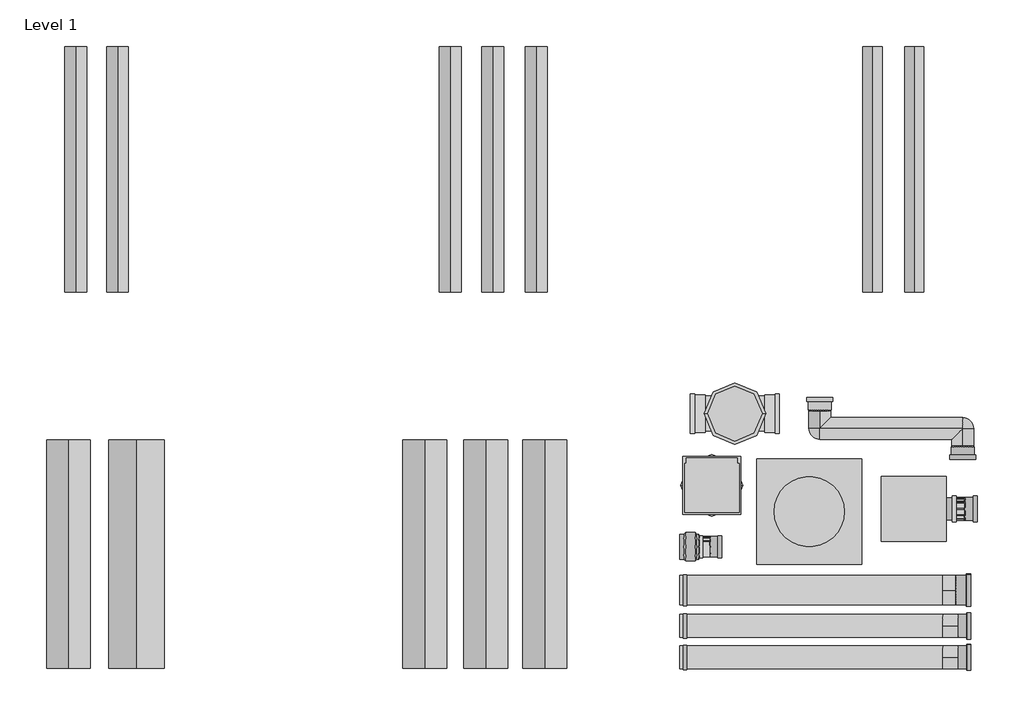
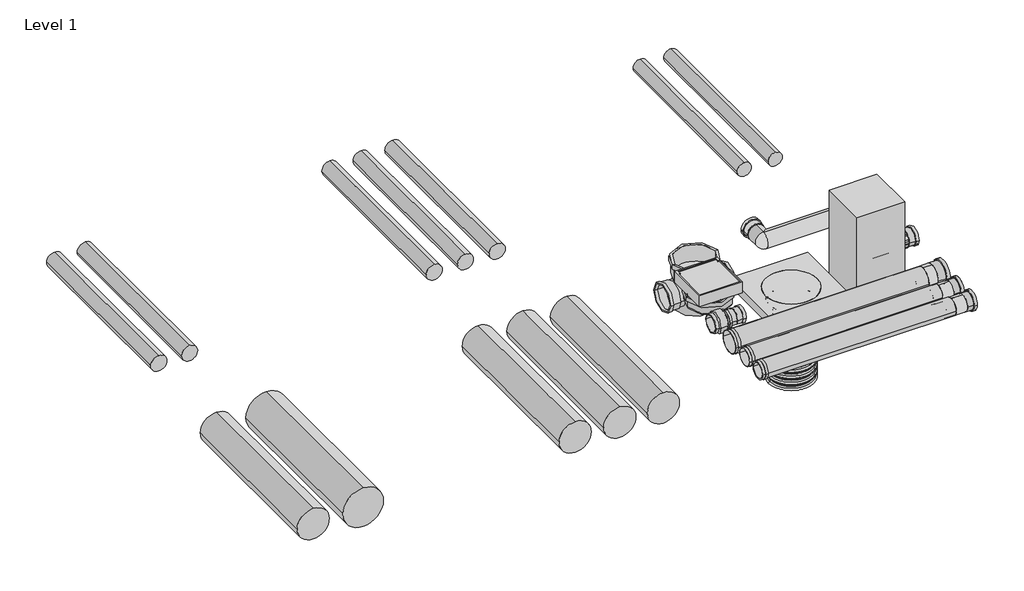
# One storey, incomplete: 12 pipe segments, 11 pipe fittings, 1 valve.
"""IFC4 building model written with IfcOpenShell, lengths in millimetres."""

from ifc_helpers import new_model, si_unit, point, frame, frame_2d, origin, place, context, project, spatial, circle_curve, trimmed, segment, composite_curve, outline, extrude, transform, mapped, element, save
from components import pipe_fitting_cb8fc429, pipe_fitting_7d9cd8cc, pipe_fitting_f4afef39, dn315_c06aca54, dn315_d1f62dcb, dn315_4a5b688f, sn4_1babb9bf, sn4_5ca09614, var_7b45dea3, var_4b5954e3, var_113e7091, var_a019f359, var_64b5a36c, valve_17ba4cc8

model = new_model("IFC4")

# Units and contexts
model_context = context("Model", 3, world=origin())
ifc_project = project(units=[si_unit("LENGTHUNIT", "METRE", prefix="MILLI")], contexts=[model_context])

# Site, building, storey
site = spatial("IfcSite", under=ifc_project)
building = spatial("IfcBuilding", under=site)
storey = spatial("IfcBuildingStorey", under=building, Name="Level 1", Elevation=0.0)

# Pipe fittings
placement = place(None, origin())
pipe_fitting_shape = pipe_fitting_cb8fc429(model_context)
element("IfcPipeFitting", 1, ObjectType="NLRS-90-PIF_Wavin PVC Buitenriolering Wavinflex : 160-160", at=placement, inside=storey, context=model_context, shape_type="MappedRepresentation", body=[
    mapped(pipe_fitting_shape, transform((1864.2860644, 6480.2539341, 0.0), x_axis=(1.0, 0.0, 0.0), y_axis=(0.0, 1.0, 0.0), z_axis=(0.0, 0.0, 1.0))),
])
pipe_fitting_2_shape = pipe_fitting_7d9cd8cc(model_context)
element("IfcPipeFitting", 2, ObjectType="NLRS-90-PIF_Wavin PVC Buitenriolering Wavinflex : 125-110", at=placement, inside=storey, context=model_context, shape_type="MappedRepresentation", body=[
    mapped(pipe_fitting_2_shape, transform((1880.2860644, 6096.6813144, 0.0), x_axis=(1.0, 0.0, 0.0), y_axis=(0.0, 1.0, 0.0), z_axis=(0.0, 0.0, 1.0))),
])
pipe_fitting_3_shape = pipe_fitting_f4afef39(model_context)
element("IfcPipeFitting", 3, ObjectType="NLRS-90-PIF_Wavin PVC Buitenriolering Wavinflex : 125-125", at=placement, inside=storey, context=model_context, shape_type="MappedRepresentation", body=[
    mapped(pipe_fitting_3_shape, transform((1880.2860644, 6275.7185379, 0.0), x_axis=(1.0, 0.0, 0.0), y_axis=(0.0, 1.0, 0.0), z_axis=(0.0, 0.0, 1.0))),
])
dn315_shape = dn315_c06aca54(model_context)
dn315_2_shape = dn315_d1f62dcb(model_context)
dn315_3_shape = dn315_4a5b688f(model_context)
element("IfcPipeFitting", 4, ObjectType="NLRS-90-PIF_Z_DO_NOT_USE_Wavin PVC Buitenriolering Schachtbuis (Nested) : DN315", at=placement, inside=storey, context=model_context, shape_type="MappedRepresentation", body=[
    mapped(dn315_shape, transform((1030.2860644, 6928.0712689, -805.0), x_axis=(0.0, 0.0, 1.0), y_axis=(-1.0, 0.0, 0.0), z_axis=(0.0, -1.0, 0.0))),
    mapped(dn315_2_shape, transform((1030.2860644, 6928.0712689, -805.0), x_axis=(0.0, 0.0, 1.0), y_axis=(-1.0, 0.0, 0.0), z_axis=(0.0, -1.0, 0.0))),
    mapped(dn315_3_shape, transform((1030.2860644, 6928.0712689, -805.0), x_axis=(0.0, 0.0, 1.0), y_axis=(-1.0, 0.0, 0.0), z_axis=(0.0, -1.0, 0.0))),
])
sn4_shape = sn4_1babb9bf(model_context)
element("IfcPipeFitting", 5, ObjectType="NLRS-90-PIF_Z_DO_NOT_USE_Wavin PVC Buitenriolering Steekmof (Nested) : SN4", at=placement, inside=storey, context=model_context, shape_type="MappedRepresentation", body=[
    mapped(sn4_shape, transform((1916.6852425, 6943.4836496, 0.0), x_axis=(-1.0000000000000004, 0.0, 0.0), y_axis=(0.0, -1.0000000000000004, 0.0), z_axis=(0.0, 0.0, 1.0))),
])
sn4_2_shape = sn4_5ca09614(model_context)
element("IfcPipeFitting", 6, ObjectType="NLRS-90-PIF_Z_DO_NOT_USE_Wavin PVC Buitenriolering Steekmof (Nested) : SN4", at=placement, inside=storey, context=model_context, shape_type="MappedRepresentation", body=[
    mapped(sn4_2_shape, transform((465.0577081, 6727.6424284, 0.0), x_axis=(1.0, 0.0, 0.0), y_axis=(0.0, 1.0, 0.0), z_axis=(0.0, 0.0, 1.0))),
])
var_shape = var_7b45dea3(model_context)
element("IfcPipeFitting", 7, ObjectType="NLRS-90-PIF_Wavin PVC Buitenriolering Straatkolkkop Deksel Dicht : Var.", at=placement, inside=storey, context=model_context, shape_type="MappedRepresentation", body=[
    mapped(var_shape, transform((475.1296206, 7078.3955528, -81.3640794), x_axis=(0.0, 0.0, 1.0000000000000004), y_axis=(0.0, 1.0000000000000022, 0.0), z_axis=(-1.0000000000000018, 0.0, 0.0))),
])
var_2_shape = var_4b5954e3(model_context)
element("IfcPipeFitting", 8, ObjectType="NLRS-90-PIF_Wavin PVC Buitenriolering Polder Expansiestuk : Var.", at=placement, inside=storey, context=model_context, shape_type="MappedRepresentation", body=[
    mapped(var_2_shape, transform((1498.0324362, 7402.651982, 0.0), x_axis=(1.0, 0.0, 0.0), y_axis=(0.0, 1.0, 0.0), z_axis=(0.0, 0.0, 1.0))),
])
var_3_shape = var_113e7091(model_context)
element("IfcPipeFitting", 9, ObjectType="NLRS-90-PIF_Z_DO_NOT_USE_Wavin PVC Buitenriolering Betoninlaat (Nested) : Var.", at=placement, inside=storey, context=model_context, shape_type="MappedRepresentation", body=[
    mapped(var_3_shape, transform((1030.2860644, 6928.0712689, -115.0), x_axis=(-1.0, 0.0, 0.0), y_axis=(0.0, -1.0, 0.0), z_axis=(0.0, 0.0, 1.0))),
])
var_4_shape = var_a019f359(model_context)
element("IfcPipeFitting", 10, ObjectType="NLRS-90-PIF_Wavin PVC Buitenriolering Inspectieput 315 : Var.", at=placement, inside=storey, context=model_context, shape_type="MappedRepresentation", body=[
    mapped(var_4_shape, transform((606.8038803, 7487.0612019, -400.0), x_axis=(1.0000000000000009, 0.0, 0.0), y_axis=(0.0, 1.0000000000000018, 0.0), z_axis=(0.0, 0.0, 1.0000000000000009))),
])
var_5_shape = var_64b5a36c(model_context)
element("IfcPipeFitting", 11, ObjectType="NLRS-90-PIF_Wavin PVC Buitenriolering Gres PVC Overgang : Var.", at=placement, inside=storey, context=model_context, shape_type="MappedRepresentation", body=[
    mapped(var_5_shape, transform((428.0577081, 6727.6424284, 0.0), x_axis=(1.0, 0.0, 0.0), y_axis=(0.0, 1.0, 0.0), z_axis=(0.0, 0.0, 1.0))),
])

# Pipe segments
element("IfcPipeSegment", 12, ObjectType="NLRS-90-PI_Wavin PVC-BuRi Plain-End Pipe SN4 Grey 125-200", at=placement, inside=storey, context=model_context, shape_type="SweptSolid", body=[
    extrude(outline(composite_curve([segment(trimmed(circle_curve(frame_2d((0.0, -3149.6328718)), 62.5), [point((0.0, -3212.1328718))], [point((-62.5, -3149.6328718))], False, "CARTESIAN"), True, "CONTINUOUS"), segment(trimmed(circle_curve(frame_2d((0.0, -3149.6328718)), 62.5), [point((-62.5, -3149.6328718))], [point((0.0, -3087.1328718))], False, "CARTESIAN"), True, "CONTINUOUS"), segment(trimmed(circle_curve(frame_2d((0.0, -3149.6328718)), 62.5), [point((0.0, -3087.1328718))], [point((62.5, -3149.6328718))], False, "CARTESIAN"), True, "CONTINUOUS"), segment(trimmed(circle_curve(frame_2d((0.0, -3149.6328718)), 62.5), [point((62.5, -3149.6328718))], [point((0.0, -3212.1328718))], False, "CARTESIAN"), True, "CONTINUOUS")], self_intersect=False)), frame((0.0, 8180.8690361, 0.0), z_axis=(0.0, 1.0, 0.0), x_axis=(0.0, 0.0, 1.0)), (0.0, 0.0, 1.0), 1400.0),
])
element("IfcPipeSegment", 13, ObjectType="NLRS-90-PI_Wavin PVC-BuRi Plain-End Pipe SN8 Grey 125-200", at=placement, inside=storey, context=model_context, shape_type="SweptSolid", body=[
    extrude(outline(composite_curve([segment(trimmed(circle_curve(frame_2d((0.0, -1014.6734037)), 62.5), [point((0.0, -1077.1734037))], [point((-62.5, -1014.6734037))], False, "CARTESIAN"), True, "CONTINUOUS"), segment(trimmed(circle_curve(frame_2d((0.0, -1014.6734037)), 62.5), [point((-62.5, -1014.6734037))], [point((0.0, -952.1734037))], False, "CARTESIAN"), True, "CONTINUOUS"), segment(trimmed(circle_curve(frame_2d((0.0, -1014.6734037)), 62.5), [point((0.0, -952.1734037))], [point((62.5, -1014.6734037))], False, "CARTESIAN"), True, "CONTINUOUS"), segment(trimmed(circle_curve(frame_2d((0.0, -1014.6734037)), 62.5), [point((62.5, -1014.6734037))], [point((0.0, -1077.1734037))], False, "CARTESIAN"), True, "CONTINUOUS")], self_intersect=False)), frame((0.0, 8180.8690361, 0.0), z_axis=(0.0, 1.0, 0.0), x_axis=(0.0, 0.0, 1.0)), (0.0, 0.0, 1.0), 1400.0),
])
element("IfcPipeSegment", 14, ObjectType="NLRS-90-PI_Wavin PVC-BuRi Plain-End Pipe BRL 2023 Grey 110", at=placement, inside=storey, context=model_context, shape_type="SweptSolid", body=[
    extrude(outline(composite_curve([segment(trimmed(circle_curve(frame_2d((0.0, 1390.2860644)), 55.0), [point((0.0, 1335.2860644))], [point((-55.0, 1390.2860644))], False, "CARTESIAN"), True, "CONTINUOUS"), segment(trimmed(circle_curve(frame_2d((0.0, 1390.2860644)), 55.0), [point((-55.0, 1390.2860644))], [point((0.0, 1445.2860644))], False, "CARTESIAN"), True, "CONTINUOUS"), segment(trimmed(circle_curve(frame_2d((0.0, 1390.2860644)), 55.0), [point((0.0, 1445.2860644))], [point((55.0, 1390.2860644))], False, "CARTESIAN"), True, "CONTINUOUS"), segment(trimmed(circle_curve(frame_2d((0.0, 1390.2860644)), 55.0), [point((55.0, 1390.2860644))], [point((0.0, 1335.2860644))], False, "CARTESIAN"), True, "CONTINUOUS")], self_intersect=False)), frame((0.0, 8180.8690361, 0.0), z_axis=(0.0, 1.0, 0.0), x_axis=(0.0, 0.0, 1.0)), (0.0, 0.0, 1.0), 1400.0),
])
element("IfcPipeSegment", 15, ObjectType="NLRS-90-PI_Wavin PVC-BuRi Socket-End Pipe SN4 Grey 250-500", at=placement, inside=storey, context=model_context, shape_type="SweptSolid", body=[
    extrude(outline(composite_curve([segment(trimmed(circle_curve(frame_2d((0.0, -3191.5902676)), 125.0), [point((0.0, -3316.5902676))], [point((-125.0, -3191.5902676))], False, "CARTESIAN"), True, "CONTINUOUS"), segment(trimmed(circle_curve(frame_2d((0.0, -3191.5902676)), 125.0), [point((-125.0, -3191.5902676))], [point((0.0, -3066.5902676))], False, "CARTESIAN"), True, "CONTINUOUS"), segment(trimmed(circle_curve(frame_2d((0.0, -3191.5902676)), 125.0), [point((0.0, -3066.5902676))], [point((125.0, -3191.5902676))], False, "CARTESIAN"), True, "CONTINUOUS"), segment(trimmed(circle_curve(frame_2d((0.0, -3191.5902676)), 125.0), [point((125.0, -3191.5902676))], [point((0.0, -3316.5902676))], False, "CARTESIAN"), True, "CONTINUOUS")], self_intersect=False)), frame((0.0, 6035.6813144, 0.0), z_axis=(0.0, 1.0, 0.0), x_axis=(0.0, 0.0, 1.0)), (0.0, 0.0, 1.0), 1300.0),
])
element("IfcPipeSegment", 16, ObjectType="NLRS-90-PI_Wavin PVC-BuRi Socket-End Pipe SN8 Grey 250-630", at=placement, inside=storey, context=model_context, shape_type="SweptSolid", body=[
    extrude(outline(composite_curve([segment(trimmed(circle_curve(frame_2d((0.0, -1160.3130276)), 125.0), [point((0.0, -1285.3130276))], [point((-125.0, -1160.3130276))], False, "CARTESIAN"), True, "CONTINUOUS"), segment(trimmed(circle_curve(frame_2d((0.0, -1160.3130276)), 125.0), [point((-125.0, -1160.3130276))], [point((0.0, -1035.3130276))], False, "CARTESIAN"), True, "CONTINUOUS"), segment(trimmed(circle_curve(frame_2d((0.0, -1160.3130276)), 125.0), [point((0.0, -1035.3130276))], [point((125.0, -1160.3130276))], False, "CARTESIAN"), True, "CONTINUOUS"), segment(trimmed(circle_curve(frame_2d((0.0, -1160.3130276)), 125.0), [point((125.0, -1160.3130276))], [point((0.0, -1285.3130276))], False, "CARTESIAN"), True, "CONTINUOUS")], self_intersect=False)), frame((0.0, 6035.6813144, 0.0), z_axis=(0.0, 1.0, 0.0), x_axis=(0.0, 0.0, 1.0)), (0.0, 0.0, 1.0), 1300.0),
])
element("IfcPipeSegment", 17, ObjectType="NLRS-90-PI_Wavin PVC-BuRi Plain-End Pipe SN4 Brown 125-160", at=placement, inside=storey, context=model_context, shape_type="SweptSolid", body=[
    extrude(outline(composite_curve([segment(trimmed(circle_curve(frame_2d((0.0, -2912.1589365)), 62.5), [point((0.0, -2974.6589365))], [point((-62.5, -2912.1589365))], False, "CARTESIAN"), True, "CONTINUOUS"), segment(trimmed(circle_curve(frame_2d((0.0, -2912.1589365)), 62.5), [point((-62.5, -2912.1589365))], [point((0.0, -2849.6589365))], False, "CARTESIAN"), True, "CONTINUOUS"), segment(trimmed(circle_curve(frame_2d((0.0, -2912.1589365)), 62.5), [point((0.0, -2849.6589365))], [point((62.5, -2912.1589365))], False, "CARTESIAN"), True, "CONTINUOUS"), segment(trimmed(circle_curve(frame_2d((0.0, -2912.1589365)), 62.5), [point((62.5, -2912.1589365))], [point((0.0, -2974.6589365))], False, "CARTESIAN"), True, "CONTINUOUS")], self_intersect=False)), frame((0.0, 8180.8690361, 0.0), z_axis=(0.0, 1.0, 0.0), x_axis=(0.0, 0.0, 1.0)), (0.0, 0.0, 1.0), 1400.0),
])
element("IfcPipeSegment", 18, ObjectType="NLRS-90-PI_Wavin PVC-BuRi Plain-End Pipe SN8 Brown 125-200", at=placement, inside=storey, context=model_context, shape_type="SweptSolid", body=[
    extrude(outline(composite_curve([segment(trimmed(circle_curve(frame_2d((0.0, -772.5604487)), 62.5), [point((0.0, -835.0604487))], [point((-62.5, -772.5604487))], False, "CARTESIAN"), True, "CONTINUOUS"), segment(trimmed(circle_curve(frame_2d((0.0, -772.5604487)), 62.5), [point((-62.5, -772.5604487))], [point((0.0, -710.0604487))], False, "CARTESIAN"), True, "CONTINUOUS"), segment(trimmed(circle_curve(frame_2d((0.0, -772.5604487)), 62.5), [point((0.0, -710.0604487))], [point((62.5, -772.5604487))], False, "CARTESIAN"), True, "CONTINUOUS"), segment(trimmed(circle_curve(frame_2d((0.0, -772.5604487)), 62.5), [point((62.5, -772.5604487))], [point((0.0, -835.0604487))], False, "CARTESIAN"), True, "CONTINUOUS")], self_intersect=False)), frame((0.0, 8180.8690361, 0.0), z_axis=(0.0, 1.0, 0.0), x_axis=(0.0, 0.0, 1.0)), (0.0, 0.0, 1.0), 1400.0),
])
element("IfcPipeSegment", 19, ObjectType="NLRS-90-PI_Wavin PVC-BuRi Plain-End Pipe SN8 Green 125-200", at=placement, inside=storey, context=model_context, shape_type="SweptSolid", body=[
    extrude(outline(composite_curve([segment(trimmed(circle_curve(frame_2d((0.0, -526.3779726)), 62.5), [point((0.0, -588.8779726))], [point((-62.5, -526.3779726))], False, "CARTESIAN"), True, "CONTINUOUS"), segment(trimmed(circle_curve(frame_2d((0.0, -526.3779726)), 62.5), [point((-62.5, -526.3779726))], [point((0.0, -463.8779726))], False, "CARTESIAN"), True, "CONTINUOUS"), segment(trimmed(circle_curve(frame_2d((0.0, -526.3779726)), 62.5), [point((0.0, -463.8779726))], [point((62.5, -526.3779726))], False, "CARTESIAN"), True, "CONTINUOUS"), segment(trimmed(circle_curve(frame_2d((0.0, -526.3779726)), 62.5), [point((62.5, -526.3779726))], [point((0.0, -588.8779726))], False, "CARTESIAN"), True, "CONTINUOUS")], self_intersect=False)), frame((0.0, 8180.8690361, 0.0), z_axis=(0.0, 1.0, 0.0), x_axis=(0.0, 0.0, 1.0)), (0.0, 0.0, 1.0), 1400.0),
])
element("IfcPipeSegment", 20, ObjectType="NLRS-90-PI_Wavin PVC-BuRi Plain-End Pipe BRL 2023 Green 110", at=placement, inside=storey, context=model_context, shape_type="SweptSolid", body=[
    extrude(outline(composite_curve([segment(trimmed(circle_curve(frame_2d((0.0, 1628.5489883)), 55.0), [point((0.0, 1573.5489883))], [point((-55.0, 1628.5489883))], False, "CARTESIAN"), True, "CONTINUOUS"), segment(trimmed(circle_curve(frame_2d((0.0, 1628.5489883)), 55.0), [point((-55.0, 1628.5489883))], [point((0.0, 1683.5489883))], False, "CARTESIAN"), True, "CONTINUOUS"), segment(trimmed(circle_curve(frame_2d((0.0, 1628.5489883)), 55.0), [point((0.0, 1683.5489883))], [point((55.0, 1628.5489883))], False, "CARTESIAN"), True, "CONTINUOUS"), segment(trimmed(circle_curve(frame_2d((0.0, 1628.5489883)), 55.0), [point((55.0, 1628.5489883))], [point((0.0, 1573.5489883))], False, "CARTESIAN"), True, "CONTINUOUS")], self_intersect=False)), frame((0.0, 8180.8690361, 0.0), z_axis=(0.0, 1.0, 0.0), x_axis=(0.0, 0.0, 1.0)), (0.0, 0.0, 1.0), 1400.0),
])
element("IfcPipeSegment", 21, ObjectType="NLRS-90-PI_Wavin PVC-BuRi Socket-End Pipe SN4 Brown 315-400", at=placement, inside=storey, context=model_context, shape_type="SweptSolid", body=[
    extrude(outline(composite_curve([segment(trimmed(circle_curve(frame_2d((0.0, -2804.604191)), 157.5), [point((0.0, -2962.104191))], [point((-157.5, -2804.604191))], False, "CARTESIAN"), True, "CONTINUOUS"), segment(trimmed(circle_curve(frame_2d((0.0, -2804.604191)), 157.5), [point((-157.5, -2804.604191))], [point((0.0, -2647.104191))], False, "CARTESIAN"), True, "CONTINUOUS"), segment(trimmed(circle_curve(frame_2d((0.0, -2804.604191)), 157.5), [point((0.0, -2647.104191))], [point((157.5, -2804.604191))], False, "CARTESIAN"), True, "CONTINUOUS"), segment(trimmed(circle_curve(frame_2d((0.0, -2804.604191)), 157.5), [point((157.5, -2804.604191))], [point((0.0, -2962.104191))], False, "CARTESIAN"), True, "CONTINUOUS")], self_intersect=False)), frame((0.0, 6035.6813144, 0.0), z_axis=(0.0, 1.0, 0.0), x_axis=(0.0, 0.0, 1.0)), (0.0, 0.0, 1.0), 1300.0),
])
element("IfcPipeSegment", 22, ObjectType="NLRS-90-PI_Wavin PVC-BuRi Socket-End Pipe SN8 Brown 250-630", at=placement, inside=storey, context=model_context, shape_type="SweptSolid", body=[
    extrude(outline(composite_curve([segment(trimmed(circle_curve(frame_2d((0.0, -814.1438999)), 125.0), [point((0.0, -939.1438999))], [point((-125.0, -814.1438999))], False, "CARTESIAN"), True, "CONTINUOUS"), segment(trimmed(circle_curve(frame_2d((0.0, -814.1438999)), 125.0), [point((-125.0, -814.1438999))], [point((0.0, -689.1438999))], False, "CARTESIAN"), True, "CONTINUOUS"), segment(trimmed(circle_curve(frame_2d((0.0, -814.1438999)), 125.0), [point((0.0, -689.1438999))], [point((125.0, -814.1438999))], False, "CARTESIAN"), True, "CONTINUOUS"), segment(trimmed(circle_curve(frame_2d((0.0, -814.1438999)), 125.0), [point((125.0, -814.1438999))], [point((0.0, -939.1438999))], False, "CARTESIAN"), True, "CONTINUOUS")], self_intersect=False)), frame((0.0, 6035.6813144, 0.0), z_axis=(0.0, 1.0, 0.0), x_axis=(0.0, 0.0, 1.0)), (0.0, 0.0, 1.0), 1300.0),
])
element("IfcPipeSegment", 23, ObjectType="NLRS-90-PI_Wavin PVC-BuRi Socket-End Pipe SN8 Green 250-630", at=placement, inside=storey, context=model_context, shape_type="SweptSolid", body=[
    extrude(outline(composite_curve([segment(trimmed(circle_curve(frame_2d((0.0, -476.5599658)), 125.0), [point((0.0, -601.5599658))], [point((-125.0, -476.5599658))], False, "CARTESIAN"), True, "CONTINUOUS"), segment(trimmed(circle_curve(frame_2d((0.0, -476.5599658)), 125.0), [point((-125.0, -476.5599658))], [point((0.0, -351.5599658))], False, "CARTESIAN"), True, "CONTINUOUS"), segment(trimmed(circle_curve(frame_2d((0.0, -476.5599658)), 125.0), [point((0.0, -351.5599658))], [point((125.0, -476.5599658))], False, "CARTESIAN"), True, "CONTINUOUS"), segment(trimmed(circle_curve(frame_2d((0.0, -476.5599658)), 125.0), [point((125.0, -476.5599658))], [point((0.0, -601.5599658))], False, "CARTESIAN"), True, "CONTINUOUS")], self_intersect=False)), frame((0.0, 6035.6813144, 0.0), z_axis=(0.0, 1.0, 0.0), x_axis=(0.0, 0.0, 1.0)), (0.0, 0.0, 1.0), 1300.0),
])

# Valve
valve_shape = valve_17ba4cc8(model_context)
element("IfcValve", 24, ObjectType="NLRS_74_PF_QS relief chamber for small system_Wavin : Wavin Ontlastput 125", at=placement, inside=storey, context=model_context, shape_type="MappedRepresentation", body=[
    mapped(valve_shape, transform((1625.7278051, 6943.4836496, 0.0), x_axis=(-1.0000000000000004, 0.0, 0.0), y_axis=(0.0, -1.0000000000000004, 0.0), z_axis=(0.0, 0.0, 1.0))),
])

save(model, "model.ifc")
